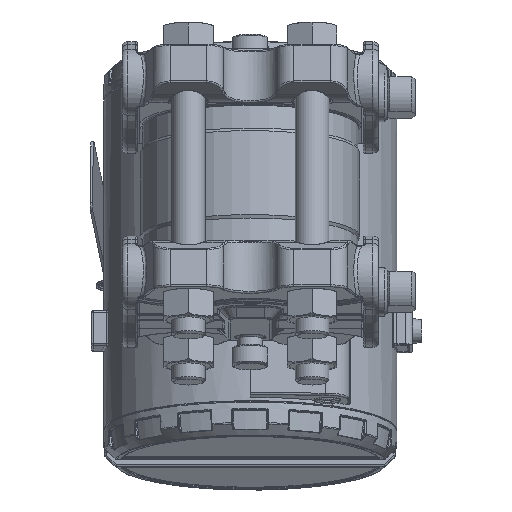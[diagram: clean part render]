
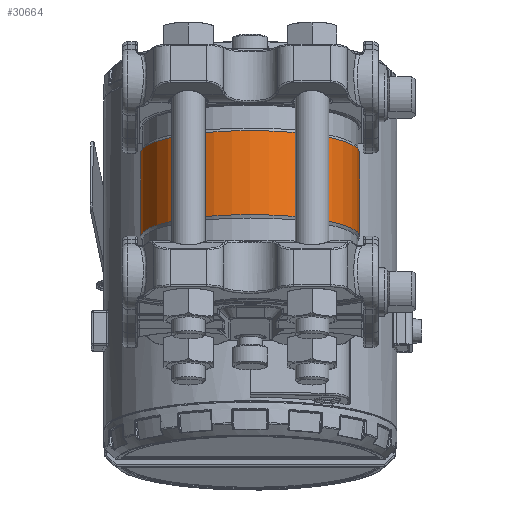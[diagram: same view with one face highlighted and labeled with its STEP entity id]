
A CAD part, left-side view. The second image highlights one B-rep face of the part: STEP entity #30664.
In plain terms, the highlighted cylindrical face has radius 31 mm (diameter 62 mm), a partial arc.
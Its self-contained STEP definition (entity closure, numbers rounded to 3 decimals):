
#1566=CYLINDRICAL_SURFACE('',#33222,31.);
#2451=FACE_OUTER_BOUND('',#4540,.T.);
#4540=EDGE_LOOP('',(#20464,#20465,#20466,#20467,#20468,#20469,#20470,#20471,
#20472,#20473));
#6718=LINE('',#47161,#7883);
#6719=LINE('',#47175,#7884);
#7883=VECTOR('',#37465,10.);
#7884=VECTOR('',#37466,10.);
#9045=CIRCLE('',#33202,31.);
#9048=CIRCLE('',#33205,31.);
#9054=CIRCLE('',#33215,31.);
#9055=CIRCLE('',#33216,31.);
#11525=B_SPLINE_CURVE_WITH_KNOTS('',3,(#47136,#47137,#47138,#47139,#47140,
#47141),.UNSPECIFIED.,.F.,.F.,(4,1,1,4),(0.383,0.548,
0.913,1.279),.UNSPECIFIED.);
#11527=B_SPLINE_CURVE_WITH_KNOTS('',3,(#47154,#47155,#47156,#47157,#47158,
#47159),.UNSPECIFIED.,.F.,.F.,(4,1,1,4),(0.,0.274,0.548,
0.896),.UNSPECIFIED.);
#11528=B_SPLINE_CURVE_WITH_KNOTS('',3,(#47162,#47163,#47164,#47165,#47166,
#47167),.UNSPECIFIED.,.F.,.F.,(4,1,1,4),(0.383,0.548,
0.913,1.279),.UNSPECIFIED.);
#11529=B_SPLINE_CURVE_WITH_KNOTS('',3,(#47169,#47170,#47171,#47172,#47173,
#47174),.UNSPECIFIED.,.F.,.F.,(4,1,1,4),(0.,0.274,
0.548,0.895),.UNSPECIFIED.);
#12594=VERTEX_POINT('',#47003);
#12596=VERTEX_POINT('',#47016);
#12597=VERTEX_POINT('',#47029);
#12609=VERTEX_POINT('',#47072);
#12610=VERTEX_POINT('',#47074);
#12611=VERTEX_POINT('',#47086);
#12613=VERTEX_POINT('',#47135);
#12616=VERTEX_POINT('',#47153);
#12617=VERTEX_POINT('',#47160);
#12618=VERTEX_POINT('',#47168);
#15510=EDGE_CURVE('',#12597,#12596,#9045,.T.);
#15514=EDGE_CURVE('',#12594,#12597,#9048,.T.);
#15526=EDGE_CURVE('',#12610,#12609,#9054,.T.);
#15529=EDGE_CURVE('',#12609,#12611,#9055,.T.);
#15533=EDGE_CURVE('',#12594,#12613,#11525,.T.);
#15537=EDGE_CURVE('',#12616,#12596,#11527,.T.);
#15538=EDGE_CURVE('',#12617,#12616,#6718,.T.);
#15539=EDGE_CURVE('',#12610,#12617,#11528,.T.);
#15540=EDGE_CURVE('',#12618,#12611,#11529,.T.);
#15541=EDGE_CURVE('',#12613,#12618,#6719,.T.);
#20464=ORIENTED_EDGE('',*,*,#15514,.T.);
#20465=ORIENTED_EDGE('',*,*,#15510,.T.);
#20466=ORIENTED_EDGE('',*,*,#15537,.F.);
#20467=ORIENTED_EDGE('',*,*,#15538,.F.);
#20468=ORIENTED_EDGE('',*,*,#15539,.F.);
#20469=ORIENTED_EDGE('',*,*,#15526,.T.);
#20470=ORIENTED_EDGE('',*,*,#15529,.T.);
#20471=ORIENTED_EDGE('',*,*,#15540,.F.);
#20472=ORIENTED_EDGE('',*,*,#15541,.F.);
#20473=ORIENTED_EDGE('',*,*,#15533,.F.);
#30664=ADVANCED_FACE('',(#2451),#1566,.T.);
#33202=AXIS2_PLACEMENT_3D('',#47030,#37419,#37420);
#33205=AXIS2_PLACEMENT_3D('',#47036,#37426,#37427);
#33215=AXIS2_PLACEMENT_3D('',#47075,#37448,#37449);
#33216=AXIS2_PLACEMENT_3D('',#47099,#37450,#37451);
#33222=AXIS2_PLACEMENT_3D('',#47152,#37463,#37464);
#37419=DIRECTION('center_axis',(0.,0.,1.));
#37420=DIRECTION('ref_axis',(-1.,0.,0.));
#37426=DIRECTION('center_axis',(0.,0.,1.));
#37427=DIRECTION('ref_axis',(-1.,0.,0.));
#37448=DIRECTION('center_axis',(0.,0.,-1.));
#37449=DIRECTION('ref_axis',(-1.,0.,0.));
#37450=DIRECTION('center_axis',(0.,0.,-1.));
#37451=DIRECTION('ref_axis',(-1.,0.,0.));
#37463=DIRECTION('center_axis',(0.,0.,1.));
#37464=DIRECTION('ref_axis',(-1.,0.,0.));
#37465=DIRECTION('',(0.,0.,-1.));
#37466=DIRECTION('',(0.,0.,1.));
#47003=CARTESIAN_POINT('',(29.987,7.86,-12.134));
#47016=CARTESIAN_POINT('',(29.987,-7.86,-12.134));
#47029=CARTESIAN_POINT('',(-31.,0.,-12.134));
#47030=CARTESIAN_POINT('Origin',(0.,0.,-12.134));
#47036=CARTESIAN_POINT('Origin',(0.,0.,-12.134));
#47072=CARTESIAN_POINT('',(-31.,0.,12.134));
#47074=CARTESIAN_POINT('',(29.987,-7.86,12.134));
#47075=CARTESIAN_POINT('Origin',(0.,0.,12.134));
#47086=CARTESIAN_POINT('',(29.987,7.86,12.134));
#47099=CARTESIAN_POINT('Origin',(0.,0.,12.134));
#47135=CARTESIAN_POINT('',(28.645,11.853,-5.));
#47136=CARTESIAN_POINT('Ctrl Pts',(29.985,7.857,-12.131));
#47137=CARTESIAN_POINT('Ctrl Pts',(29.871,8.293,-11.889));
#47138=CARTESIAN_POINT('Ctrl Pts',(29.495,9.621,-10.961));
#47139=CARTESIAN_POINT('Ctrl Pts',(28.867,11.328,-8.643));
#47140=CARTESIAN_POINT('Ctrl Pts',(28.645,11.853,-6.218));
#47141=CARTESIAN_POINT('Ctrl Pts',(28.645,11.853,-5.));
#47152=CARTESIAN_POINT('Origin',(0.,0.,0.));
#47153=CARTESIAN_POINT('',(28.645,-11.853,-5.));
#47154=CARTESIAN_POINT('Ctrl Pts',(28.645,-11.853,-5.));
#47155=CARTESIAN_POINT('Ctrl Pts',(28.645,-11.853,-5.913));
#47156=CARTESIAN_POINT('Ctrl Pts',(28.767,-11.563,-7.738));
#47157=CARTESIAN_POINT('Ctrl Pts',(29.282,-10.232,-10.332));
#47158=CARTESIAN_POINT('Ctrl Pts',(29.747,-8.777,-11.623));
#47159=CARTESIAN_POINT('Ctrl Pts',(29.987,-7.86,-12.134));
#47160=CARTESIAN_POINT('',(28.645,-11.853,5.));
#47161=CARTESIAN_POINT('',(28.645,-11.853,0.));
#47162=CARTESIAN_POINT('Ctrl Pts',(29.985,-7.857,12.131));
#47163=CARTESIAN_POINT('Ctrl Pts',(29.871,-8.293,11.889));
#47164=CARTESIAN_POINT('Ctrl Pts',(29.495,-9.621,10.961));
#47165=CARTESIAN_POINT('Ctrl Pts',(28.867,-11.328,8.643));
#47166=CARTESIAN_POINT('Ctrl Pts',(28.645,-11.853,6.218));
#47167=CARTESIAN_POINT('Ctrl Pts',(28.645,-11.853,5.));
#47168=CARTESIAN_POINT('',(28.645,11.853,5.));
#47169=CARTESIAN_POINT('Ctrl Pts',(28.645,11.853,5.));
#47170=CARTESIAN_POINT('Ctrl Pts',(28.645,11.853,5.913));
#47171=CARTESIAN_POINT('Ctrl Pts',(28.767,11.563,7.738));
#47172=CARTESIAN_POINT('Ctrl Pts',(29.282,10.232,10.332));
#47173=CARTESIAN_POINT('Ctrl Pts',(29.747,8.777,11.623));
#47174=CARTESIAN_POINT('Ctrl Pts',(29.987,7.86,12.134));
#47175=CARTESIAN_POINT('',(28.645,11.853,0.));
